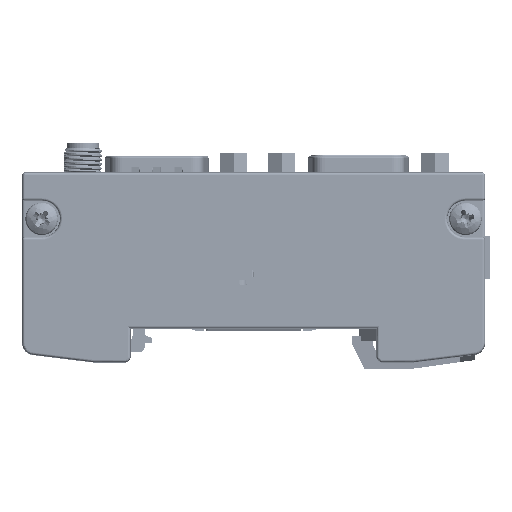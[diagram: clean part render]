
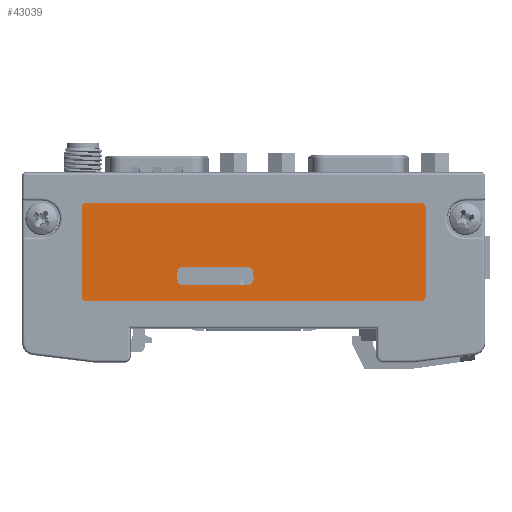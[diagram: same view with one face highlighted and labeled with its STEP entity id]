
A CAD part, left-side view. The second image highlights one B-rep face of the part: STEP entity #43039.
In plain terms, the highlighted planar face has unit normal (-1, 0, 0) as drawn and (0, 0, -1) by its records, which use the part's own axes.
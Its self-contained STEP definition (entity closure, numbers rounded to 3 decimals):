
#148 = VERTEX_POINT ( 'NONE', #188227 ) ;
#1901 = CARTESIAN_POINT ( 'NONE',  ( -15.4, 0., -3.9 ) ) ;
#2304 = VERTEX_POINT ( 'NONE', #121106 ) ;
#3686 = CIRCLE ( 'NONE', #81073, 0.75 ) ;
#4016 = CARTESIAN_POINT ( 'NONE',  ( -16.4, -11.4, -3.9 ) ) ;
#7787 = VERTEX_POINT ( 'NONE', #184525 ) ;
#12397 = CARTESIAN_POINT ( 'NONE',  ( -16.4, 0., -3.9 ) ) ;
#14907 = CARTESIAN_POINT ( 'NONE',  ( -17.4, -1., -3.9 ) ) ;
#16142 = PLANE ( 'NONE',  #243630 ) ;
#17049 = DIRECTION ( 'NONE',  ( -1., 0., 0. ) ) ;
#20866 = CARTESIAN_POINT ( 'NONE',  ( -16.4, -1., -3.9 ) ) ;
#24808 = AXIS2_PLACEMENT_3D ( 'NONE', #4016, #109805, #150965 ) ;
#29992 = ORIENTED_EDGE ( 'NONE', *, *, #237045, .F. ) ;
#30787 = VECTOR ( 'NONE', #175152, 1000. ) ;
#30835 = ORIENTED_EDGE ( 'NONE', *, *, #164817, .T. ) ;
#31606 = DIRECTION ( 'NONE',  ( 0., 0., -1. ) ) ;
#38308 = ORIENTED_EDGE ( 'NONE', *, *, #90561, .T. ) ;
#39181 = EDGE_CURVE ( 'NONE', #112158, #116266, #159334, .T. ) ;
#39840 = VERTEX_POINT ( 'NONE', #81835 ) ;
#40659 = LINE ( 'NONE', #224173, #228331 ) ;
#43039 = ADVANCED_FACE ( 'NONE', ( #72346, #169478 ), #16142, .T. ) ;
#43124 = VERTEX_POINT ( 'NONE', #132236 ) ;
#44942 = EDGE_CURVE ( 'NONE', #181854, #121869, #116767, .T. ) ;
#50640 = DIRECTION ( 'NONE',  ( -1., 0., 0. ) ) ;
#53758 = EDGE_CURVE ( 'NONE', #116266, #124197, #151105, .T. ) ;
#56331 = CARTESIAN_POINT ( 'NONE',  ( -18.4, -11.4, -3.9 ) ) ;
#56397 = CARTESIAN_POINT ( 'NONE',  ( 0., 0., -3.9 ) ) ;
#60666 = EDGE_CURVE ( 'NONE', #7787, #2304, #144586, .T. ) ;
#61526 = EDGE_CURVE ( 'NONE', #136918, #112158, #86622, .T. ) ;
#64685 = CARTESIAN_POINT ( 'NONE',  ( -5., 28., -3.9 ) ) ;
#65291 = LINE ( 'NONE', #238445, #162587 ) ;
#65870 = CARTESIAN_POINT ( 'NONE',  ( -5., -27.25, -3.9 ) ) ;
#72346 = FACE_BOUND ( 'NONE', #180328, .T. ) ;
#74559 = AXIS2_PLACEMENT_3D ( 'NONE', #92446, #31606, #114063 ) ;
#77390 = VECTOR ( 'NONE', #270024, 1000. ) ;
#78143 = CARTESIAN_POINT ( 'NONE',  ( -5.75, -27.25, -3.9 ) ) ;
#78153 = CIRCLE ( 'NONE', #255110, 1. ) ;
#81073 = AXIS2_PLACEMENT_3D ( 'NONE', #202266, #95351, #249008 ) ;
#81835 = CARTESIAN_POINT ( 'NONE',  ( -20.25, -28., -3.9 ) ) ;
#85809 = VERTEX_POINT ( 'NONE', #142617 ) ;
#86622 = LINE ( 'NONE', #97687, #100023 ) ;
#88429 = ORIENTED_EDGE ( 'NONE', *, *, #153635, .T. ) ;
#90229 = CIRCLE ( 'NONE', #24808, 1. ) ;
#90561 = EDGE_CURVE ( 'NONE', #39840, #148, #3686, .T. ) ;
#91717 = EDGE_CURVE ( 'NONE', #121869, #39840, #194991, .T. ) ;
#92446 = CARTESIAN_POINT ( 'NONE',  ( -5.75, 27.25, -3.9 ) ) ;
#93661 = DIRECTION ( 'NONE',  ( 0., 0., -1. ) ) ;
#95351 = DIRECTION ( 'NONE',  ( 0., 0., -1. ) ) ;
#95467 = CARTESIAN_POINT ( 'NONE',  ( -20.25, 27.25, -3.9 ) ) ;
#95524 = ORIENTED_EDGE ( 'NONE', *, *, #53758, .F. ) ;
#96000 = EDGE_CURVE ( 'NONE', #85809, #233209, #65291, .T. ) ;
#97687 = CARTESIAN_POINT ( 'NONE',  ( -18.4, 0., -3.9 ) ) ;
#98560 = EDGE_CURVE ( 'NONE', #43124, #150297, #40659, .T. ) ;
#100023 = VECTOR ( 'NONE', #164303, 1000. ) ;
#100469 = AXIS2_PLACEMENT_3D ( 'NONE', #139964, #248705, #120320 ) ;
#106075 = AXIS2_PLACEMENT_3D ( 'NONE', #78143, #121285, #141810 ) ;
#109104 = EDGE_CURVE ( 'NONE', #124197, #7787, #78153, .T. ) ;
#109805 = DIRECTION ( 'NONE',  ( 0., 0., -1. ) ) ;
#112158 = VERTEX_POINT ( 'NONE', #143830 ) ;
#114063 = DIRECTION ( 'NONE',  ( -1., 0., 0. ) ) ;
#115393 = VERTEX_POINT ( 'NONE', #190932 ) ;
#116266 = VERTEX_POINT ( 'NONE', #120073 ) ;
#116437 = VECTOR ( 'NONE', #204575, 1000. ) ;
#116767 = CIRCLE ( 'NONE', #106075, 0.75 ) ;
#117531 = VECTOR ( 'NONE', #186494, 1000. ) ;
#119110 = DIRECTION ( 'NONE',  ( -1., 0., 0. ) ) ;
#120051 = CARTESIAN_POINT ( 'NONE',  ( -5., -28., -3.9 ) ) ;
#120073 = CARTESIAN_POINT ( 'NONE',  ( -17.4, 0., -3.9 ) ) ;
#120320 = DIRECTION ( 'NONE',  ( -1., 0., 0. ) ) ;
#121106 = CARTESIAN_POINT ( 'NONE',  ( -15.4, -11.4, -3.9 ) ) ;
#121285 = DIRECTION ( 'NONE',  ( 0., 0., -1. ) ) ;
#121629 = DIRECTION ( 'NONE',  ( -1., 0., 0. ) ) ;
#121869 = VERTEX_POINT ( 'NONE', #225933 ) ;
#122421 = VERTEX_POINT ( 'NONE', #263212 ) ;
#124197 = VERTEX_POINT ( 'NONE', #12397 ) ;
#125732 = DIRECTION ( 'NONE',  ( 0., 0., -1. ) ) ;
#126411 = LINE ( 'NONE', #270121, #116437 ) ;
#127908 = VECTOR ( 'NONE', #236150, 1000. ) ;
#132236 = CARTESIAN_POINT ( 'NONE',  ( -16.4, -12.4, -3.9 ) ) ;
#136918 = VERTEX_POINT ( 'NONE', #56331 ) ;
#139964 = CARTESIAN_POINT ( 'NONE',  ( -17.4, -11.4, -3.9 ) ) ;
#141810 = DIRECTION ( 'NONE',  ( -1., 0., 0. ) ) ;
#142617 = CARTESIAN_POINT ( 'NONE',  ( -20.25, 28., -3.9 ) ) ;
#143804 = ORIENTED_EDGE ( 'NONE', *, *, #98560, .F. ) ;
#143830 = CARTESIAN_POINT ( 'NONE',  ( -18.4, -1., -3.9 ) ) ;
#144586 = LINE ( 'NONE', #1901, #30787 ) ;
#145236 = DIRECTION ( 'NONE',  ( 0., 0., -1. ) ) ;
#150297 = VERTEX_POINT ( 'NONE', #237625 ) ;
#150311 = DIRECTION ( 'NONE',  ( 1., 0., 0. ) ) ;
#150965 = DIRECTION ( 'NONE',  ( -1., 0., 0. ) ) ;
#151105 = LINE ( 'NONE', #273549, #117531 ) ;
#153635 = EDGE_CURVE ( 'NONE', #122421, #85809, #275219, .T. ) ;
#153811 = AXIS2_PLACEMENT_3D ( 'NONE', #95467, #93661, #50640 ) ;
#158355 = ORIENTED_EDGE ( 'NONE', *, *, #109104, .F. ) ;
#158595 = CIRCLE ( 'NONE', #100469, 1. ) ;
#159334 = CIRCLE ( 'NONE', #210458, 1. ) ;
#162587 = VECTOR ( 'NONE', #150311, 1000. ) ;
#164303 = DIRECTION ( 'NONE',  ( 0., 1., 0. ) ) ;
#164814 = ORIENTED_EDGE ( 'NONE', *, *, #91717, .T. ) ;
#164817 = EDGE_CURVE ( 'NONE', #233209, #115393, #189280, .T. ) ;
#165393 = ORIENTED_EDGE ( 'NONE', *, *, #39181, .F. ) ;
#165679 = DIRECTION ( 'NONE',  ( 0., 0., -1. ) ) ;
#169478 = FACE_OUTER_BOUND ( 'NONE', #267618, .T. ) ;
#172602 = ORIENTED_EDGE ( 'NONE', *, *, #208029, .T. ) ;
#175152 = DIRECTION ( 'NONE',  ( 0., -1., 0. ) ) ;
#180328 = EDGE_LOOP ( 'NONE', ( #158355, #95524, #165393, #234599, #268060, #143804, #29992, #222046 ) ) ;
#181854 = VERTEX_POINT ( 'NONE', #65870 ) ;
#184525 = CARTESIAN_POINT ( 'NONE',  ( -15.4, -1., -3.9 ) ) ;
#186494 = DIRECTION ( 'NONE',  ( 1., 0., 0. ) ) ;
#188227 = CARTESIAN_POINT ( 'NONE',  ( -21., -27.25, -3.9 ) ) ;
#189280 = CIRCLE ( 'NONE', #74559, 0.75 ) ;
#190932 = CARTESIAN_POINT ( 'NONE',  ( -5., 27.25, -3.9 ) ) ;
#194991 = LINE ( 'NONE', #120051, #77390 ) ;
#202266 = CARTESIAN_POINT ( 'NONE',  ( -20.25, -27.25, -3.9 ) ) ;
#204575 = DIRECTION ( 'NONE',  ( 0., 1., 0. ) ) ;
#205130 = LINE ( 'NONE', #64685, #127908 ) ;
#208029 = EDGE_CURVE ( 'NONE', #115393, #181854, #205130, .T. ) ;
#210458 = AXIS2_PLACEMENT_3D ( 'NONE', #14907, #165679, #121629 ) ;
#222046 = ORIENTED_EDGE ( 'NONE', *, *, #60666, .F. ) ;
#224173 = CARTESIAN_POINT ( 'NONE',  ( 0., -12.4, -3.9 ) ) ;
#225933 = CARTESIAN_POINT ( 'NONE',  ( -5.75, -28., -3.9 ) ) ;
#228331 = VECTOR ( 'NONE', #119110, 1000. ) ;
#232791 = EDGE_CURVE ( 'NONE', #150297, #136918, #158595, .T. ) ;
#233209 = VERTEX_POINT ( 'NONE', #247566 ) ;
#234599 = ORIENTED_EDGE ( 'NONE', *, *, #61526, .F. ) ;
#236150 = DIRECTION ( 'NONE',  ( 0., -1., 0. ) ) ;
#237045 = EDGE_CURVE ( 'NONE', #2304, #43124, #90229, .T. ) ;
#237625 = CARTESIAN_POINT ( 'NONE',  ( -17.4, -12.4, -3.9 ) ) ;
#238445 = CARTESIAN_POINT ( 'NONE',  ( -21., 28., -3.9 ) ) ;
#243630 = AXIS2_PLACEMENT_3D ( 'NONE', #56397, #145236, #17049 ) ;
#244066 = EDGE_CURVE ( 'NONE', #148, #122421, #126411, .T. ) ;
#247566 = CARTESIAN_POINT ( 'NONE',  ( -5.75, 28., -3.9 ) ) ;
#248705 = DIRECTION ( 'NONE',  ( 0., 0., -1. ) ) ;
#249008 = DIRECTION ( 'NONE',  ( -1., 0., 0. ) ) ;
#250334 = ORIENTED_EDGE ( 'NONE', *, *, #96000, .T. ) ;
#255110 = AXIS2_PLACEMENT_3D ( 'NONE', #20866, #125732, #275654 ) ;
#261404 = ORIENTED_EDGE ( 'NONE', *, *, #44942, .T. ) ;
#263212 = CARTESIAN_POINT ( 'NONE',  ( -21., 27.25, -3.9 ) ) ;
#267618 = EDGE_LOOP ( 'NONE', ( #276382, #88429, #250334, #30835, #172602, #261404, #164814, #38308 ) ) ;
#268060 = ORIENTED_EDGE ( 'NONE', *, *, #232791, .F. ) ;
#270024 = DIRECTION ( 'NONE',  ( -1., 0., 0. ) ) ;
#270121 = CARTESIAN_POINT ( 'NONE',  ( -21., -28., -3.9 ) ) ;
#273549 = CARTESIAN_POINT ( 'NONE',  ( 0., 0., -3.9 ) ) ;
#275219 = CIRCLE ( 'NONE', #153811, 0.75 ) ;
#275654 = DIRECTION ( 'NONE',  ( -1., 0., 0. ) ) ;
#276382 = ORIENTED_EDGE ( 'NONE', *, *, #244066, .T. ) ;
